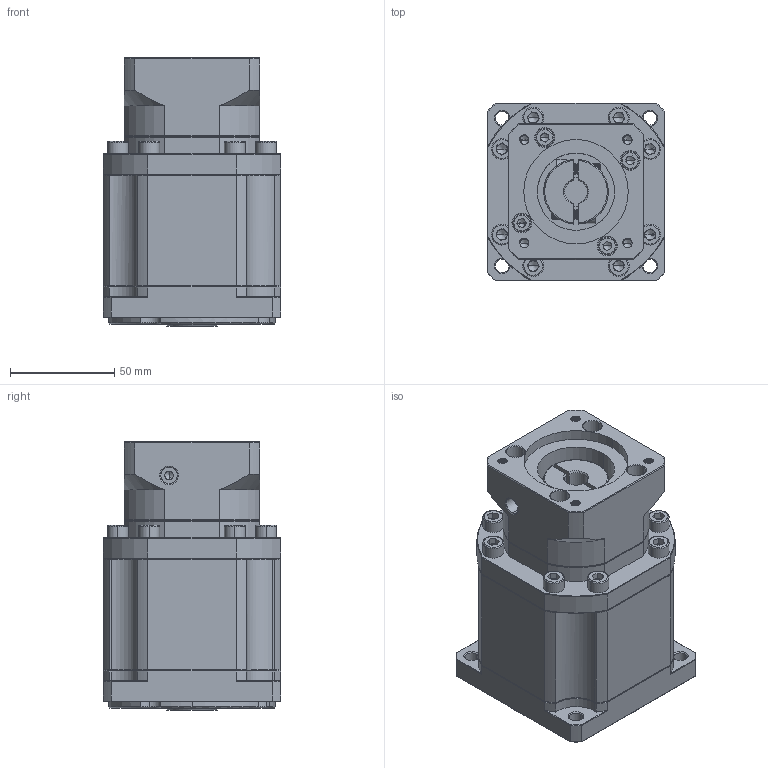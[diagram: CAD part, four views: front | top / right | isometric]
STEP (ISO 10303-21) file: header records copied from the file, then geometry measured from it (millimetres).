
FILE_DESCRIPTION (( 'STEP AP214' ), '1' );
FILE_NAME ('ZB090-K15-L3-P2-11-50-70-M5.step', '2023-08-18T13:41:41', ( '' ), ( '' ), 'SwSTEP 2.0', 'SolidWorks 2016', '' );
FILE_SCHEMA (( 'AUTOMOTIVE_DESIGN' ));
Length unit declared in the file: millimetre
Products named in the file (1): ZB090-K15-L3-P2-11-50-70-M5
Bounding box: 85 x 85 x 128.5 mm (x, y, z)
Volume: 646977 mm3; surface area: 81352.3 mm2
Topology: 6 solids, 6 shells, 2311 faces, 6152 edges, 3936 vertices
Faces by surface type: plane 1178, bspline 416, cylinder 379, cone 316, torus 22
Entity records: 119803 total; most frequent: CARTESIAN_POINT 40028, ORIENTED_EDGE 12216, DIRECTION 9787, EDGE_CURVE 6108, VERTEX_POINT 3936, VECTOR 3905, LINE 3905, AXIS2_PLACEMENT_3D 2941
